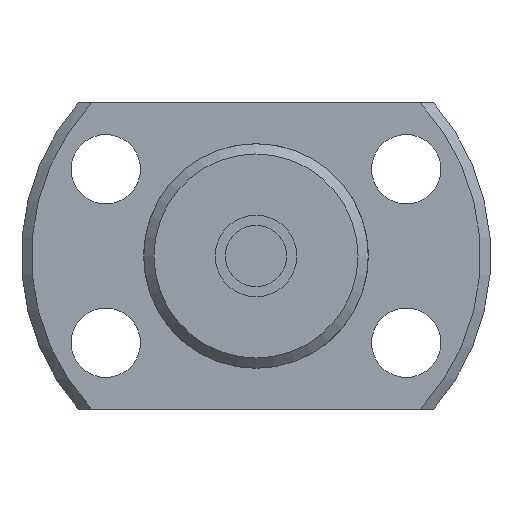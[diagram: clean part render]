
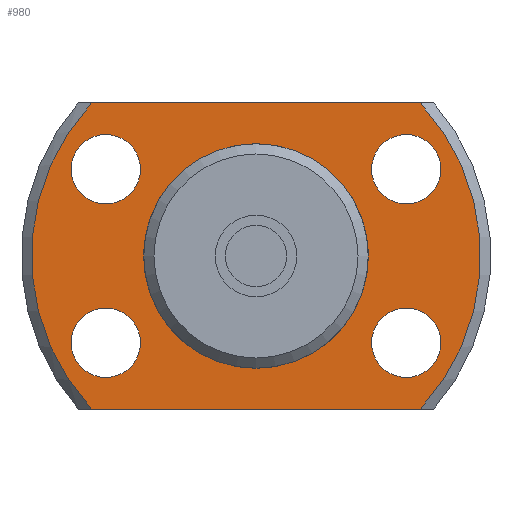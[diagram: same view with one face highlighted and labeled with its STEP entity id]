
A CAD part, left-side view. The second image highlights one B-rep face of the part: STEP entity #980.
In plain terms, the highlighted planar face has unit normal (-1, 0, 0).
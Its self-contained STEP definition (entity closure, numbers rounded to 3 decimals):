
#87=LINE('',#1707,#129);
#88=LINE('',#1711,#130);
#129=VECTOR('',#1366,1000.);
#130=VECTOR('',#1369,1000.);
#280=ORIENTED_EDGE('',*,*,#493,.T.);
#281=ORIENTED_EDGE('',*,*,#494,.T.);
#282=ORIENTED_EDGE('',*,*,#495,.T.);
#283=ORIENTED_EDGE('',*,*,#496,.T.);
#284=ORIENTED_EDGE('',*,*,#482,.F.);
#285=ORIENTED_EDGE('',*,*,#497,.F.);
#286=ORIENTED_EDGE('',*,*,#498,.F.);
#287=ORIENTED_EDGE('',*,*,#499,.F.);
#288=ORIENTED_EDGE('',*,*,#476,.T.);
#476=EDGE_CURVE('',#594,#594,#668,.T.);
#482=EDGE_CURVE('',#599,#600,#671,.T.);
#493=EDGE_CURVE('',#609,#609,#677,.T.);
#494=EDGE_CURVE('',#610,#610,#678,.T.);
#495=EDGE_CURVE('',#611,#611,#679,.T.);
#496=EDGE_CURVE('',#612,#612,#680,.T.);
#497=EDGE_CURVE('',#613,#599,#87,.T.);
#498=EDGE_CURVE('',#614,#613,#681,.T.);
#499=EDGE_CURVE('',#600,#614,#88,.T.);
#594=VERTEX_POINT('',#1650);
#599=VERTEX_POINT('',#1664);
#600=VERTEX_POINT('',#1666);
#609=VERTEX_POINT('',#1700);
#610=VERTEX_POINT('',#1702);
#611=VERTEX_POINT('',#1704);
#612=VERTEX_POINT('',#1706);
#613=VERTEX_POINT('',#1708);
#614=VERTEX_POINT('',#1710);
#668=CIRCLE('',#1103,5.25);
#671=CIRCLE('',#1107,11.);
#677=CIRCLE('',#1118,1.7);
#678=CIRCLE('',#1119,1.7);
#679=CIRCLE('',#1120,1.7);
#680=CIRCLE('',#1121,1.7);
#681=CIRCLE('',#1122,11.);
#753=EDGE_LOOP('',(#280));
#754=EDGE_LOOP('',(#281));
#755=EDGE_LOOP('',(#282));
#756=EDGE_LOOP('',(#283));
#757=EDGE_LOOP('',(#284,#285,#286,#287));
#758=EDGE_LOOP('',(#288));
#861=FACE_BOUND('',#753,.T.);
#862=FACE_BOUND('',#754,.T.);
#863=FACE_BOUND('',#755,.T.);
#864=FACE_BOUND('',#756,.T.);
#865=FACE_BOUND('',#757,.T.);
#866=FACE_BOUND('',#758,.T.);
#927=PLANE('',#1117);
#980=ADVANCED_FACE('',(#861,#862,#863,#864,#865,#866),#927,.F.);
#1103=AXIS2_PLACEMENT_3D('',#1649,#1324,#1325);
#1107=AXIS2_PLACEMENT_3D('',#1665,#1334,#1335);
#1117=AXIS2_PLACEMENT_3D('',#1698,#1356,#1357);
#1118=AXIS2_PLACEMENT_3D('',#1699,#1358,#1359);
#1119=AXIS2_PLACEMENT_3D('',#1701,#1360,#1361);
#1120=AXIS2_PLACEMENT_3D('',#1703,#1362,#1363);
#1121=AXIS2_PLACEMENT_3D('',#1705,#1364,#1365);
#1122=AXIS2_PLACEMENT_3D('',#1709,#1367,#1368);
#1324=DIRECTION('',(1.,0.,0.));
#1325=DIRECTION('',(0.,0.,-1.));
#1334=DIRECTION('',(1.,0.,0.));
#1335=DIRECTION('',(0.,0.,-1.));
#1356=DIRECTION('',(1.,0.,0.));
#1357=DIRECTION('',(0.,0.,-1.));
#1358=DIRECTION('',(1.,0.,0.));
#1359=DIRECTION('',(0.,0.,-1.));
#1360=DIRECTION('',(1.,0.,0.));
#1361=DIRECTION('',(0.,0.,-1.));
#1362=DIRECTION('',(1.,0.,0.));
#1363=DIRECTION('',(0.,0.,-1.));
#1364=DIRECTION('',(1.,0.,0.));
#1365=DIRECTION('',(0.,0.,-1.));
#1366=DIRECTION('',(0.,1.,0.));
#1367=DIRECTION('',(1.,0.,0.));
#1368=DIRECTION('',(0.,0.,-1.));
#1369=DIRECTION('',(0.,-1.,0.));
#1649=CARTESIAN_POINT('',(13.,0.,0.));
#1650=CARTESIAN_POINT('',(13.,0.,-5.25));
#1664=CARTESIAN_POINT('',(13.,8.047,-7.5));
#1665=CARTESIAN_POINT('',(13.,0.,0.));
#1666=CARTESIAN_POINT('',(13.,8.047,7.5));
#1698=CARTESIAN_POINT('',(13.,5.25,0.));
#1699=CARTESIAN_POINT('',(13.,-7.361,-4.25));
#1700=CARTESIAN_POINT('',(13.,-7.361,-5.95));
#1701=CARTESIAN_POINT('',(13.,-7.361,4.25));
#1702=CARTESIAN_POINT('',(13.,-7.361,2.55));
#1703=CARTESIAN_POINT('',(13.,7.361,-4.25));
#1704=CARTESIAN_POINT('',(13.,7.361,-5.95));
#1705=CARTESIAN_POINT('',(13.,7.361,4.25));
#1706=CARTESIAN_POINT('',(13.,7.361,2.55));
#1707=CARTESIAN_POINT('',(13.,-16.5,-7.5));
#1708=CARTESIAN_POINT('',(13.,-8.047,-7.5));
#1709=CARTESIAN_POINT('',(13.,0.,0.));
#1710=CARTESIAN_POINT('',(13.,-8.047,7.5));
#1711=CARTESIAN_POINT('',(13.,16.5,7.5));
